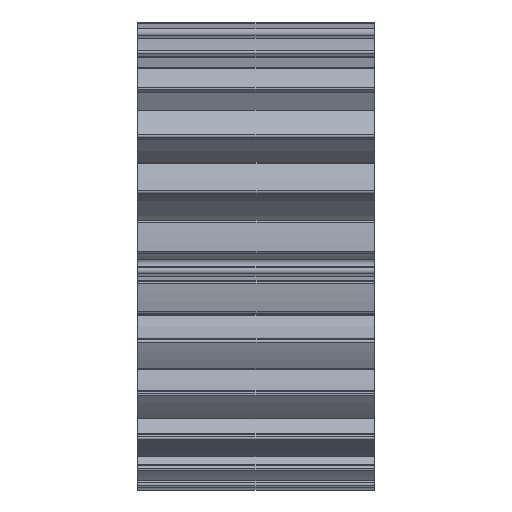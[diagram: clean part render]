
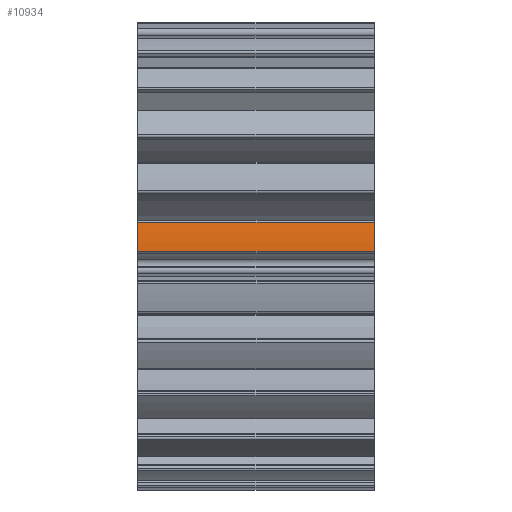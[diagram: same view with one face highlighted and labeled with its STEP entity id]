
A CAD part, left-side view. The second image highlights one B-rep face of the part: STEP entity #10934.
In plain terms, the highlighted cylindrical face has radius 49.5 mm (diameter 99 mm), a partial arc.
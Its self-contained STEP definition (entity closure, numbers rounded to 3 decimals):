
#303 = DIRECTION ( 'NONE',  ( 0., -1., 0. ) ) ;
#785 = DIRECTION ( 'NONE',  ( 0., 1., 0. ) ) ;
#909 = ORIENTED_EDGE ( 'NONE', *, *, #1709, .T. ) ;
#980 = VECTOR ( 'NONE', #7550, 1000. ) ;
#1233 = AXIS2_PLACEMENT_3D ( 'NONE', #7826, #785, #9042 ) ;
#1620 = CARTESIAN_POINT ( 'NONE',  ( -48.977, 20., 7.174 ) ) ;
#1709 = EDGE_CURVE ( 'NONE', #11881, #8148, #5810, .T. ) ;
#1765 = CARTESIAN_POINT ( 'NONE',  ( -48.977, -30., 7.174 ) ) ;
#1904 = LINE ( 'NONE', #4041, #980 ) ;
#2641 = FACE_OUTER_BOUND ( 'NONE', #14219, .T. ) ;
#4041 = CARTESIAN_POINT ( 'NONE',  ( -49.49, 0., 1. ) ) ;
#4358 = EDGE_CURVE ( 'NONE', #13645, #13326, #1904, .T. ) ;
#4483 = EDGE_CURVE ( 'NONE', #13326, #11881, #5204, .T. ) ;
#5204 = CIRCLE ( 'NONE', #1233, 49.5 ) ;
#5217 = CARTESIAN_POINT ( 'NONE',  ( -48.977, 0., 7.174 ) ) ;
#5305 = CARTESIAN_POINT ( 'NONE',  ( -49.49, -30., 1. ) ) ;
#5810 = LINE ( 'NONE', #5217, #14912 ) ;
#6165 = ORIENTED_EDGE ( 'NONE', *, *, #4483, .T. ) ;
#6327 = CIRCLE ( 'NONE', #10877, 49.5 ) ;
#7400 = CARTESIAN_POINT ( 'NONE',  ( 0., 20., 0. ) ) ;
#7550 = DIRECTION ( 'NONE',  ( 0., -1., 0. ) ) ;
#7826 = CARTESIAN_POINT ( 'NONE',  ( 0., -30., 0. ) ) ;
#7945 = ORIENTED_EDGE ( 'NONE', *, *, #11132, .T. ) ;
#8003 = DIRECTION ( 'NONE',  ( 0., 1., 0. ) ) ;
#8148 = VERTEX_POINT ( 'NONE', #1620 ) ;
#8575 = DIRECTION ( 'NONE',  ( 0., 0., 1. ) ) ;
#9042 = DIRECTION ( 'NONE',  ( 0., 0., 1. ) ) ;
#9713 = CARTESIAN_POINT ( 'NONE',  ( -49.49, 20., 1. ) ) ;
#10877 = AXIS2_PLACEMENT_3D ( 'NONE', #7400, #303, #8575 ) ;
#10934 = ADVANCED_FACE ( 'NONE', ( #2641 ), #11380, .T. ) ;
#11132 = EDGE_CURVE ( 'NONE', #8148, #13645, #6327, .T. ) ;
#11380 = CYLINDRICAL_SURFACE ( 'NONE', #12842, 49.5 ) ;
#11881 = VERTEX_POINT ( 'NONE', #1765 ) ;
#12412 = DIRECTION ( 'NONE',  ( 0., 1., 0. ) ) ;
#12842 = AXIS2_PLACEMENT_3D ( 'NONE', #12958, #8003, #14183 ) ;
#12958 = CARTESIAN_POINT ( 'NONE',  ( 0., 0., 0. ) ) ;
#13326 = VERTEX_POINT ( 'NONE', #5305 ) ;
#13645 = VERTEX_POINT ( 'NONE', #9713 ) ;
#14183 = DIRECTION ( 'NONE',  ( 0., 0., 1. ) ) ;
#14219 = EDGE_LOOP ( 'NONE', ( #909, #7945, #14540, #6165 ) ) ;
#14540 = ORIENTED_EDGE ( 'NONE', *, *, #4358, .T. ) ;
#14912 = VECTOR ( 'NONE', #12412, 1000. ) ;
